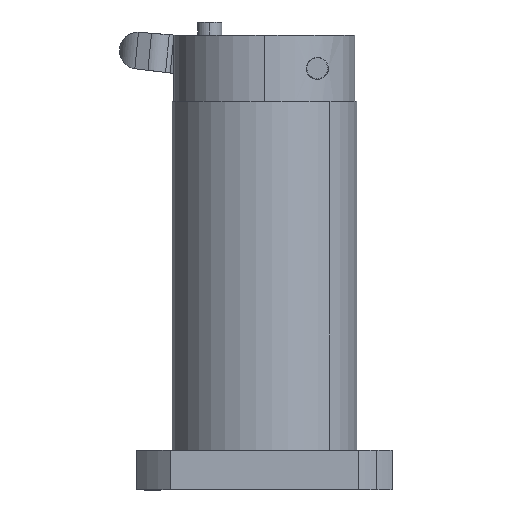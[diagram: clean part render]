
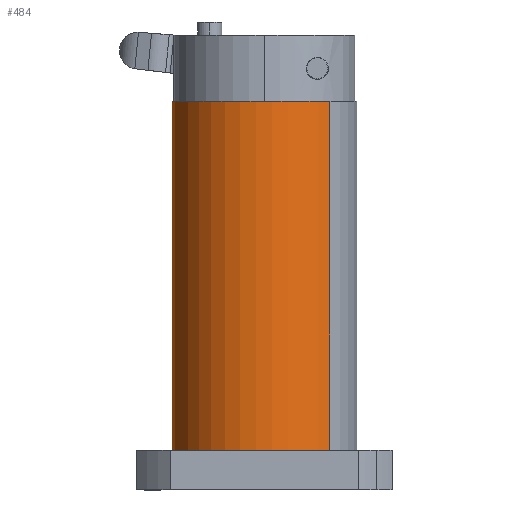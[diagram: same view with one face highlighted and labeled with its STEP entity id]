
A CAD part, left-side view. The second image highlights one B-rep face of the part: STEP entity #484.
In plain terms, the highlighted cylindrical face has radius 21 mm (diameter 42 mm), a partial arc.
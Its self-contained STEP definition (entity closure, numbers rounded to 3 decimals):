
#146 = CIRCLE ( 'NONE', #7398, 21. ) ;
#192 = CARTESIAN_POINT ( 'NONE',  ( -15.734, -2.874, 145.823 ) ) ;
#247 = EDGE_CURVE ( 'NONE', #5993, #1793, #7883, .T. ) ;
#443 = CIRCLE ( 'NONE', #5471, 21. ) ;
#484 = ADVANCED_FACE ( 'NONE', ( #5780 ), #8392, .T. ) ;
#844 = DIRECTION ( 'NONE',  ( 0., 0., -1. ) ) ;
#1669 = EDGE_CURVE ( 'NONE', #5627, #1793, #146, .T. ) ;
#1793 = VERTEX_POINT ( 'NONE', #3685 ) ;
#1813 = ORIENTED_EDGE ( 'NONE', *, *, #247, .T. ) ;
#1916 = EDGE_CURVE ( 'NONE', #3193, #5993, #443, .T. ) ;
#2160 = CARTESIAN_POINT ( 'NONE',  ( -0.885, 11.975, 106.323 ) ) ;
#2546 = LINE ( 'NONE', #3223, #5704 ) ;
#3193 = VERTEX_POINT ( 'NONE', #7558 ) ;
#3223 = CARTESIAN_POINT ( 'NONE',  ( -30.583, -17.723, 106.323 ) ) ;
#3307 = DIRECTION ( 'NONE',  ( -0.707, -0.707, 0. ) ) ;
#3477 = AXIS2_PLACEMENT_3D ( 'NONE', #6069, #7372, #3307 ) ;
#3685 = CARTESIAN_POINT ( 'NONE',  ( -0.885, 11.975, 66.823 ) ) ;
#3794 = DIRECTION ( 'NONE',  ( 0., 0., -1. ) ) ;
#4655 = DIRECTION ( 'NONE',  ( 0., 0., -1. ) ) ;
#4712 = ORIENTED_EDGE ( 'NONE', *, *, #5080, .F. ) ;
#5080 = EDGE_CURVE ( 'NONE', #3193, #5627, #2546, .T. ) ;
#5471 = AXIS2_PLACEMENT_3D ( 'NONE', #192, #7896, #8020 ) ;
#5627 = VERTEX_POINT ( 'NONE', #7184 ) ;
#5704 = VECTOR ( 'NONE', #3794, 1000. ) ;
#5780 = FACE_OUTER_BOUND ( 'NONE', #7562, .T. ) ;
#5974 = CARTESIAN_POINT ( 'NONE',  ( -15.734, -2.874, 66.823 ) ) ;
#5993 = VERTEX_POINT ( 'NONE', #7173 ) ;
#6069 = CARTESIAN_POINT ( 'NONE',  ( -15.734, -2.874, 106.323 ) ) ;
#6214 = VECTOR ( 'NONE', #4655, 1000. ) ;
#7173 = CARTESIAN_POINT ( 'NONE',  ( -0.885, 11.975, 145.823 ) ) ;
#7184 = CARTESIAN_POINT ( 'NONE',  ( -30.583, -17.723, 66.823 ) ) ;
#7372 = DIRECTION ( 'NONE',  ( 0., 0., -1. ) ) ;
#7398 = AXIS2_PLACEMENT_3D ( 'NONE', #5974, #844, #7954 ) ;
#7558 = CARTESIAN_POINT ( 'NONE',  ( -30.583, -17.723, 145.823 ) ) ;
#7562 = EDGE_LOOP ( 'NONE', ( #7938, #1813, #8329, #4712 ) ) ;
#7883 = LINE ( 'NONE', #2160, #6214 ) ;
#7896 = DIRECTION ( 'NONE',  ( 0., 0., -1. ) ) ;
#7938 = ORIENTED_EDGE ( 'NONE', *, *, #1916, .T. ) ;
#7954 = DIRECTION ( 'NONE',  ( -0.707, -0.707, 0. ) ) ;
#8020 = DIRECTION ( 'NONE',  ( -0.707, -0.707, 0. ) ) ;
#8329 = ORIENTED_EDGE ( 'NONE', *, *, #1669, .F. ) ;
#8392 = CYLINDRICAL_SURFACE ( 'NONE', #3477, 21. ) ;
